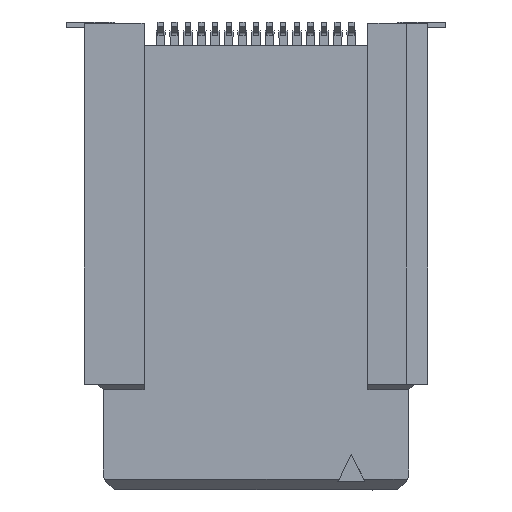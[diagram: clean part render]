
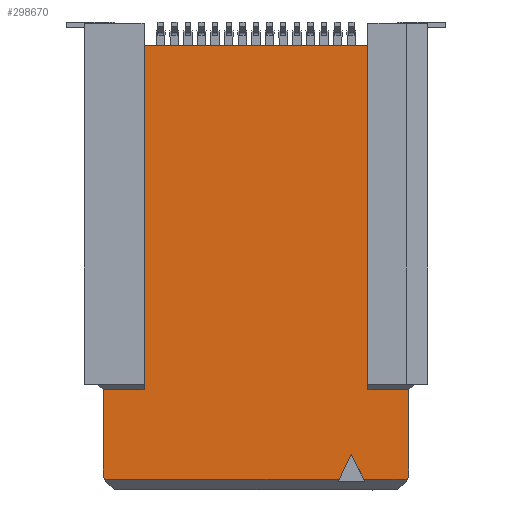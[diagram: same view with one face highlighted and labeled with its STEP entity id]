
A CAD part, front view. The second image highlights one B-rep face of the part: STEP entity #298670.
In plain terms, the highlighted planar face has unit normal (0, -1, 0).
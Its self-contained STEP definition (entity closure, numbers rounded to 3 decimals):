
#3000=CARTESIAN_POINT('',(8.88,-1.54,
-5.662));
#3010=DIRECTION('',(-1.,0.,0.));
#3020=VECTOR('',#3010,1.);
#3030=LINE('',#3000,#3020);
#3040=CARTESIAN_POINT('',(8.33,-1.54,
-5.662));
#3050=VERTEX_POINT('',#3040);
#3060=CARTESIAN_POINT('',(5.2,-1.54,
-5.662));
#3070=VERTEX_POINT('',#3060);
#3080=EDGE_CURVE('',#3050,#3070,#3030,.T.);
#16470=CARTESIAN_POINT('',(5.2,-1.54,
-6.412));
#16480=DIRECTION('',(0.,0.,1.));
#16490=VECTOR('',#16480,1.);
#16500=LINE('',#16470,#16490);
#16510=CARTESIAN_POINT('',(5.2,-1.54,
-7.162));
#16520=VERTEX_POINT('',#16510);
#16530=EDGE_CURVE('',#16520,#3070,#16500,.T.);
#87340=CARTESIAN_POINT('',(8.48,-1.54,
-5.722));
#87350=VERTEX_POINT('',#87340);
#87380=CARTESIAN_POINT('',(1.,-1.54,
-2.73));
#87390=DIRECTION('',(0.928,0.,
-0.371));
#87400=VECTOR('',#87390,1.);
#87410=LINE('',#87380,#87400);
#87420=EDGE_CURVE('',#3050,#87350,#87410,.T.);
#96480=CARTESIAN_POINT('',(7.58,-1.54,
-7.772));
#96490=VERTEX_POINT('',#96480);
#96520=CARTESIAN_POINT('',(0.,-1.54,
-11.562));
#96530=DIRECTION('',(-0.894,0.,
-0.447));
#96540=VECTOR('',#96530,1.);
#96550=LINE('',#96520,#96540);
#96560=CARTESIAN_POINT('',(8.48,-1.54,
-7.322));
#96570=VERTEX_POINT('',#96560);
#96580=EDGE_CURVE('',#96570,#96490,#96550,.T.);
#107950=CARTESIAN_POINT('',(-7.43,-1.54,
-7.162));
#107960=VERTEX_POINT('',#107950);
#107990=CARTESIAN_POINT('',(-7.43,-1.54,
0.));
#108000=DIRECTION('',(0.,0.,-1.));
#108010=VECTOR('',#108000,1.);
#108020=LINE('',#107990,#108010);
#108030=CARTESIAN_POINT('',(-7.43,-1.54,
-15.382));
#108040=VERTEX_POINT('',#108030);
#108050=EDGE_CURVE('',#107960,#108040,#108020,.T.);
#206800=CARTESIAN_POINT('',(8.48,-1.54,
-8.222));
#206810=VERTEX_POINT('',#206800);
#206840=CARTESIAN_POINT('',(0.,-1.54,
-3.982));
#206850=DIRECTION('',(0.894,0.,
-0.447));
#206860=VECTOR('',#206850,1.);
#206870=LINE('',#206840,#206860);
#206880=EDGE_CURVE('',#96490,#206810,#206870,.T.);
#207680=CARTESIAN_POINT('',(-6.43,-1.54,
-7.162));
#207690=DIRECTION('',(1.,0.,0.));
#207700=VECTOR('',#207690,1.);
#207710=LINE('',#207680,#207700);
#207720=EDGE_CURVE('',#107960,#16520,#207710,.T.);
#295970=CARTESIAN_POINT('',(5.2,-1.54,
-16.882));
#295980=VERTEX_POINT('',#295970);
#296970=CARTESIAN_POINT('',(5.2,-1.54,
-15.382));
#296980=VERTEX_POINT('',#296970);
#297010=CARTESIAN_POINT('',(5.2,-1.54,
-16.132));
#297020=DIRECTION('',(0.,0.,-1.));
#297030=VECTOR('',#297020,1.);
#297040=LINE('',#297010,#297030);
#297050=EDGE_CURVE('',#296980,#295980,#297040,.T.);
#297930=CARTESIAN_POINT('',(8.33,-1.54,
-16.882));
#297940=VERTEX_POINT('',#297930);
#297970=CARTESIAN_POINT('',(1.,-1.54,
-19.814));
#297980=DIRECTION('',(0.928,0.,
0.371));
#297990=VECTOR('',#297980,1.);
#298000=LINE('',#297970,#297990);
#298010=CARTESIAN_POINT('',(8.48,-1.54,
-16.822));
#298020=VERTEX_POINT('',#298010);
#298030=EDGE_CURVE('',#297940,#298020,#298000,.T.);
#298230=CARTESIAN_POINT('',(8.88,-1.54,
-16.882));
#298240=DIRECTION('',(-1.,0.,0.));
#298250=VECTOR('',#298240,1.);
#298260=LINE('',#298230,#298250);
#298270=EDGE_CURVE('',#297940,#295980,#298260,.T.);
#298320=CARTESIAN_POINT('',(-2.93,-1.54,
2.478));
#298330=DIRECTION('',(0.,-1.,0.));
#298340=DIRECTION('',(1.,0.,0.));
#298350=AXIS2_PLACEMENT_3D('',#298320,#298330,#298340);
#298360=PLANE('',#298350);
#298370=ORIENTED_EDGE('',*,*,#108050,.T.);
#298380=ORIENTED_EDGE('',*,*,#207720,.F.);
#298390=ORIENTED_EDGE('',*,*,#16530,.F.);
#298400=ORIENTED_EDGE('',*,*,#3080,.T.);
#298410=ORIENTED_EDGE('',*,*,#87420,.F.);
#298420=CARTESIAN_POINT('',(8.48,-1.54,
-29.452));
#298430=DIRECTION('',(0.,0.,-1.));
#298440=VECTOR('',#298430,1.);
#298450=LINE('',#298420,#298440);
#298460=EDGE_CURVE('',#87350,#96570,#298450,.T.);
#298470=ORIENTED_EDGE('',*,*,#298460,.F.);
#298480=ORIENTED_EDGE('',*,*,#96580,.F.);
#298490=ORIENTED_EDGE('',*,*,#206880,.F.);
#298500=CARTESIAN_POINT('',(8.48,-1.54,
-1.952));
#298510=DIRECTION('',(0.,0.,-1.));
#298520=VECTOR('',#298510,1.);
#298530=LINE('',#298500,#298520);
#298540=EDGE_CURVE('',#206810,#298020,#298530,.T.);
#298550=ORIENTED_EDGE('',*,*,#298540,.F.);
#298560=ORIENTED_EDGE('',*,*,#298030,.T.);
#298570=ORIENTED_EDGE('',*,*,#298270,.F.);
#298580=ORIENTED_EDGE('',*,*,#297050,.T.);
#298590=CARTESIAN_POINT('',(6.,-1.54,
-15.382));
#298600=DIRECTION('',(-1.,0.,0.));
#298610=VECTOR('',#298600,1.);
#298620=LINE('',#298590,#298610);
#298630=EDGE_CURVE('',#296980,#108040,#298620,.T.);
#298640=ORIENTED_EDGE('',*,*,#298630,.F.);
#298650=EDGE_LOOP('',(#298640,#298580,#298570,#298560,#298550,#298490,
#298480,#298470,#298410,#298400,#298390,#298380,#298370));
#298660=FACE_OUTER_BOUND('',#298650,.T.);
#298670=ADVANCED_FACE('',(#298660),#298360,.T.);
